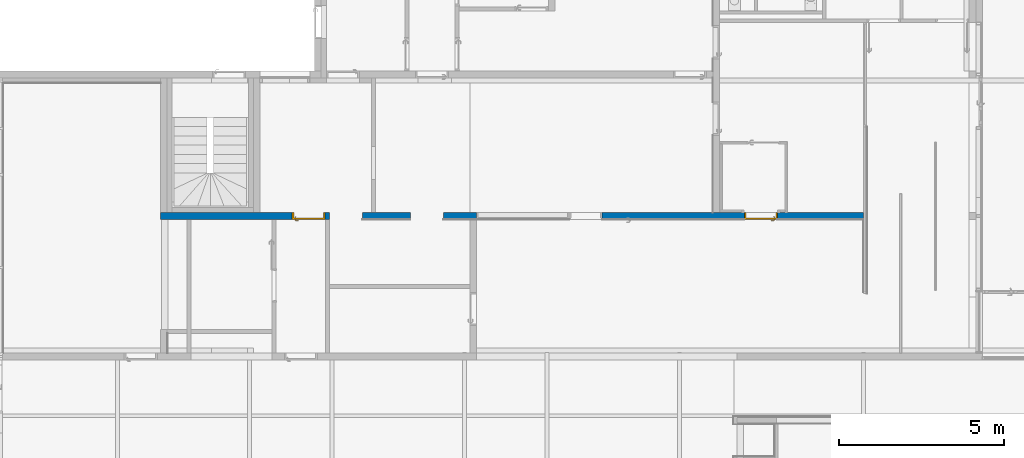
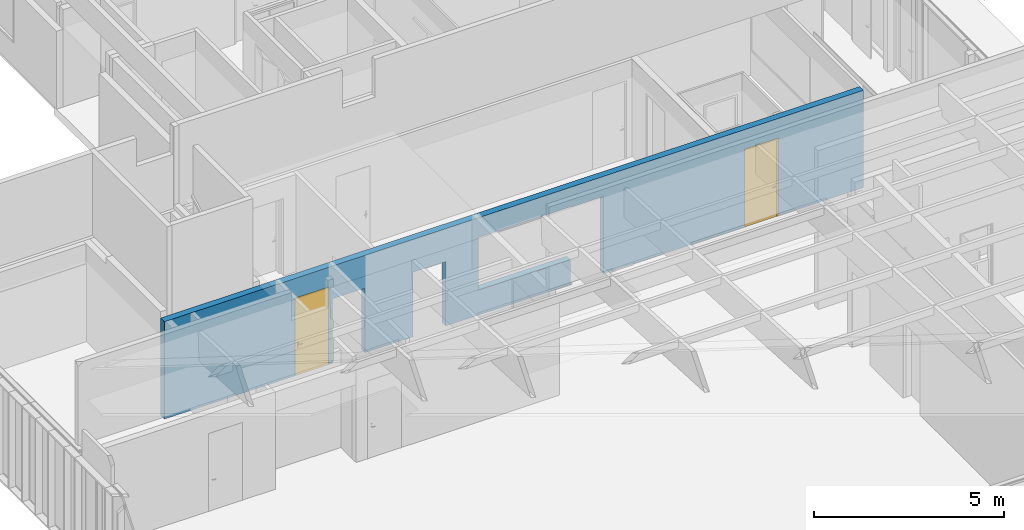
# One storey, part 86 of 240: 2 doors, 1 wall, 6 openings.
"""IFC2X3 building model written with IfcOpenShell, lengths in centimetres."""

from ifc_helpers import new_model, entity, si_unit, converted_unit, derived_unit, direction, frame, frame_2d, origin, origin_2d_with_axis, place, context, subcontext, project, spatial, rectangle, extrude, faceted_brep, source, transform, mapped, material, material_list, layer, layer_set, layer_usage, type_object, type_shapes, element, fill, save


model = new_model("IFC2X3")

# Units and contexts
model_context = context("Model", 3, precision=0.001, world=origin(), true_north=direction((6.12303176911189e-17, 1.0)))
body_context = subcontext(model_context, "Body", "Model", "MODEL_VIEW")
ifc_project = project(units=[si_unit("LENGTHUNIT", "METRE", prefix="CENTI"), si_unit("AREAUNIT", "SQUARE_METRE"), si_unit("VOLUMEUNIT", "CUBIC_METRE"), converted_unit("PLANEANGLEUNIT", "DEGREE", entity("IfcRatioMeasure", 0.0174532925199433), si_unit("PLANEANGLEUNIT", "RADIAN"), dimensions=[0, 0, 0, 0, 0, 0, 0]), si_unit("MASSUNIT", "GRAM", prefix="KILO"), derived_unit("MASSDENSITYUNIT", [(si_unit("MASSUNIT", "GRAM", prefix="KILO"), 1), (si_unit("LENGTHUNIT", "METRE"), -3)]), si_unit("TIMEUNIT", "SECOND"), si_unit("FREQUENCYUNIT", "HERTZ"), si_unit("THERMODYNAMICTEMPERATUREUNIT", "DEGREE_CELSIUS"), derived_unit("THERMALTRANSMITTANCEUNIT", [(si_unit("MASSUNIT", "GRAM", prefix="KILO"), 1), (si_unit("THERMODYNAMICTEMPERATUREUNIT", "KELVIN"), -1), (si_unit("TIMEUNIT", "SECOND"), -3)]), derived_unit("VOLUMETRICFLOWRATEUNIT", [(si_unit("LENGTHUNIT", "METRE"), 3), (si_unit("TIMEUNIT", "SECOND"), -1)]), si_unit("ELECTRICCURRENTUNIT", "AMPERE"), si_unit("ELECTRICVOLTAGEUNIT", "VOLT"), si_unit("POWERUNIT", "WATT"), si_unit("FORCEUNIT", "NEWTON", prefix="KILO"), si_unit("ILLUMINANCEUNIT", "LUX"), si_unit("LUMINOUSFLUXUNIT", "LUMEN"), si_unit("LUMINOUSINTENSITYUNIT", "CANDELA"), derived_unit("USERDEFINED", [(si_unit("MASSUNIT", "GRAM", prefix="KILO"), -1), (si_unit("LENGTHUNIT", "METRE"), -2), (si_unit("TIMEUNIT", "SECOND"), 3), (si_unit("LUMINOUSFLUXUNIT", "LUMEN"), 1)]), derived_unit("LINEARVELOCITYUNIT", [(si_unit("LENGTHUNIT", "METRE"), 1), (si_unit("TIMEUNIT", "SECOND"), -1)]), si_unit("PRESSUREUNIT", "PASCAL"), derived_unit("USERDEFINED", [(si_unit("LENGTHUNIT", "METRE"), -2), (si_unit("MASSUNIT", "GRAM", prefix="KILO"), 1), (si_unit("TIMEUNIT", "SECOND"), -2)])], contexts=[model_context])

# Site, building, storey
site_placement = place(None, frame((-2781.94577612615, 7442.24238424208, 0.0)))
site = spatial("IfcSite", under=ifc_project, at=site_placement, Name="Default", CompositionType="ELEMENT")
building_placement = place(site_placement, origin())
building = spatial("IfcBuilding", under=site, at=building_placement, CompositionType="ELEMENT")
storey_placement = place(building_placement, origin())
storey = spatial("IfcBuildingStorey", under=building, at=storey_placement, Name="N00 - COO", CompositionType="ELEMENT", Elevation=0.0)

# Wall, openings, doors
ifc_material_1 = material(Name="01 - Maçonnerie")
ifc_layer = layer(ifc_material_1, 20.0)
ifc_layer_set = layer_set([ifc_layer], Name="Mur de base:04 - Structure - béton - 20cm")
ifc_layer_usage = layer_usage(ifc_layer_set, "AXIS2", "NEGATIVE", 10.0)
wall_type = type_object("IfcWallType", Name="Mur de base:04 - Structure - béton - 20cm", PredefinedType="STANDARD", material=ifc_layer_set)
wall_placement = place(building_placement, frame((-9241.932180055, -3790.71966115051, 0.0), z_axis=(0.0, 0.0, 1.0), x_axis=(-1.0, 0.0, 0.0)))
wall = element("IfcWallStandardCase", 1, at=wall_placement, inside=storey, type_object=wall_type, material=ifc_layer_usage, Name="Mur de base:04 - Structure - béton - 20cm", ObjectType="Mur de base:04 - Structure - béton - 20cm", context=body_context, shape_type="SweptSolid", body=[
    extrude(rectangle(XDim=2125.55062791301, YDim=19.9999999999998, at=frame_2d((1062.77531395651, -2.05169214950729e-13), x_axis=(-1.0, 0.0))), origin(), (0.0, 0.0, 1.0), 313.0),
])
opening_1_placement = place(wall_placement, origin())
element("IfcOpeningElement", 2, at=opening_1_placement, cuts=wall, Name="Mur de base:04 - Structure - béton - 20cm", ObjectType="Opening", context=body_context, shape_type="SweptSolid", body=[
    extrude(rectangle(XDim=207.5, YDim=100.000000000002, at=origin_2d_with_axis()), frame((1565.06781692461, -10.0, 103.75), z_axis=(0.0, 1.0, 0.0), x_axis=(0.0, 0.0, -1.0)), (0.0, 0.0, 1.0), 19.9999999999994),
])
opening_2_placement = place(wall_placement, origin())
element("IfcOpeningElement", 3, at=opening_2_placement, cuts=wall, Name="Mur de base:04 - Structure - béton - 20cm", ObjectType="Opening", context=body_context, shape_type="SweptSolid", body=[
    extrude(rectangle(XDim=207.5, YDim=100.000000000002, at=frame_2d((0.0, 1.73372427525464e-12), x_axis=(1.0, 0.0))), frame((1320.06781692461, -10.0, 103.75), z_axis=(0.0, 1.0, 0.0), x_axis=(0.0, 0.0, -1.0)), (0.0, 0.0, 1.0), 19.9999999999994),
])
opening_3_placement = place(wall_placement, frame((1627.56781692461, -10.0, 0.0)))
opening_3 = element("IfcOpeningElement", 4, at=opening_3_placement, cuts=wall, Name="Int. Simple:PP simple (0.93m x 2.50m):1", ObjectType="Opening", context=body_context, shape_type="SweptSolid", body=[
    extrude(rectangle(XDim=248.500000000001, YDim=99.9999999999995, at=frame_2d((124.250000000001, 50.0), x_axis=(1.0, 0.0))), frame((0.0, 0.0, 0.0), z_axis=(0.0, 1.0, 0.0), x_axis=(0.0, 0.0, 1.0)), (0.0, 0.0, 1.0), 20.0),
])
opening_4_placement = place(wall_placement, frame((790.067816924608, -10.0, 0.0)))
element("IfcOpeningElement", 5, at=opening_4_placement, cuts=wall, Name="Int. Simple:PP (0.93m x 2.50m):1", ObjectType="Opening", context=body_context, shape_type="SweptSolid", body=[
    extrude(rectangle(XDim=248.500000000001, YDim=99.9999999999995, at=frame_2d((124.250000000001, 50.0), x_axis=(1.0, 0.0))), frame((0.0, 0.0, 0.0), z_axis=(0.0, 1.0, 0.0), x_axis=(0.0, 0.0, 1.0)), (0.0, 0.0, 1.0), 20.0),
])
opening_5_placement = place(wall_placement, frame((260.067816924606, -10.0, 0.0)))
opening_5 = element("IfcOpeningElement", 6, at=opening_5_placement, cuts=wall, Name="Int. Simple:PP (0.93m x 2.50m):1", ObjectType="Opening", context=body_context, shape_type="SweptSolid", body=[
    extrude(rectangle(XDim=248.500000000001, YDim=99.9999999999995, at=frame_2d((124.250000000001, 49.9999999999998), x_axis=(1.0, 0.0))), frame((0.0, 0.0, 0.0), z_axis=(0.0, 1.0, 0.0), x_axis=(0.0, 0.0, 1.0)), (0.0, 0.0, 1.0), 20.0),
])
opening_6_placement = place(wall_placement, frame((1170.03255804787, 10.0, 80.0)))
element("IfcOpeningElement", 7, at=opening_6_placement, cuts=wall, Name="châssis intérieur vitré:châssis intérieur vitré self  (h=2.22) 2:1", ObjectType="Opening", context=body_context, shape_type="SweptSolid", body=[
    extrude(rectangle(XDim=170.0, YDim=279.964741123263, at=frame_2d((84.9999999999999, 139.982370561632), x_axis=(1.0, 0.0))), frame((0.0, 0.0, 0.0), z_axis=(0.0, -1.0, 0.0), x_axis=(0.0, 0.0, 1.0)), (0.0, 0.0, 1.0), 20.0),
])
ifc_material_2 = material(Name="Finition Peinture - Blanc satiné")
ifc_material_3 = material(Name="Bois - Panneau de porte")
ifc_material_4 = material(Name="Bois - Cadre de porte")
ifc_material_list_1 = material_list([ifc_material_2, ifc_material_3, ifc_material_4])
ifc_material_list_2 = material_list([ifc_material_2, ifc_material_3, ifc_material_4])
door_style_1 = type_object("IfcDoorStyle", Name="PP simple (0.93m x 2.50m)", ConstructionType="NOTDEFINED", OperationType="SINGLE_SWING_LEFT", ParameterTakesPrecedence=False, Sizeable=False, material=ifc_material_list_2)
shared_shape_1 = source(origin(), body_context, "Body", "Brep", [
    faceted_brep([(10.5352761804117, -0.500000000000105, 86.6003983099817), (11.5000000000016, -0.500000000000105, 87.0), (11.5000000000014, -0.500000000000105, 108.0), (10.5352761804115, -0.500000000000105, 108.399601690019), (9.50000000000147, -0.500000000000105, 108.535898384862), (8.46472381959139, -0.500000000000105, 108.399601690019), (7.50000000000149, -0.500000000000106, 108.0), (7.50000000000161, -0.500000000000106, 87.0), (8.46472381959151, -0.500000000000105, 86.6003983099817), (9.50000000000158, -0.500000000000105, 86.464101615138), (10.5352761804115, 0.0, 108.399601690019), (11.5000000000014, 0.0, 108.0), (11.5000000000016, 0.0, 87.0), (10.5352761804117, 0.0, 86.6003983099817), (9.50000000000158, 0.0, 86.464101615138), (8.46472381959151, 0.0, 86.6003983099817), (7.50000000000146, 0.0, 87.0), (7.50000000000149, 0.0, 108.0), (8.46472381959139, 0.0, 108.399601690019), (9.50000000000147, 0.0, 108.535898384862)], [[[0, 1, 2, 3, 4, 5, 6, 7, 8, 9]], [[10, 11, 12, 13, 14, 15, 16, 17, 18, 19]], [[16, 15, 8, 7]], [[8, 15, 14, 9]], [[14, 13, 0, 9]], [[13, 12, 1, 0]], [[2, 1, 12, 11]], [[11, 10, 3, 2]], [[3, 10, 19, 4]], [[19, 18, 5, 4]], [[18, 17, 6, 5]], [[7, 6, 17, 16]]]),
    faceted_brep([(10.5352761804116, 4.0, 86.6003983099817), (11.5000000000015, 4.0, 87.0), (11.5000000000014, 4.0, 108.0), (10.5352761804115, 4.0, 108.399601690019), (9.50000000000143, 4.0, 108.535898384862), (8.46472381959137, 4.0, 108.399601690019), (7.50000000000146, 4.0, 108.0), (7.50000000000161, 4.0, 87.0), (8.46472381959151, 4.0, 86.6003983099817), (9.50000000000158, 4.0, 86.464101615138), (10.5352761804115, 4.49999999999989, 108.399601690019), (11.5000000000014, 4.49999999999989, 108.0), (11.5000000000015, 4.49999999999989, 87.0), (10.5352761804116, 4.49999999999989, 86.6003983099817), (9.50000000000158, 4.49999999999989, 86.464101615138), (8.46472381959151, 4.49999999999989, 86.6003983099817), (7.50000000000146, 4.49999999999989, 87.0), (7.50000000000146, 4.49999999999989, 108.0), (8.46472381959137, 4.49999999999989, 108.399601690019), (9.50000000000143, 4.49999999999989, 108.535898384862)], [[[0, 1, 2, 3, 4, 5, 6, 7, 8, 9]], [[10, 11, 12, 13, 14, 15, 16, 17, 18, 19]], [[11, 10, 3, 2]], [[3, 10, 19, 4]], [[19, 18, 5, 4]], [[18, 17, 6, 5]], [[7, 6, 17, 16]], [[16, 15, 8, 7]], [[8, 15, 14, 9]], [[14, 13, 0, 9]], [[13, 12, 1, 0]], [[2, 1, 12, 11]]]),
    faceted_brep([(9.29747013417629, -0.500000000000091, 100.778044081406), (9.70252986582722, -0.500000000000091, 100.778044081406), (10.1000000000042, -0.500000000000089, 100.699999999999), (10.1000000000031, -0.500000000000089, 99.3000000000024), (9.7025298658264, -0.500000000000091, 99.2219559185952), (9.29747013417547, -0.500000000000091, 99.221955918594), (8.8999999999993, -0.500000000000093, 99.2999999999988), (8.89999999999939, -0.500000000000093, 100.7), (8.89999999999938, -3.26509507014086, 100.7), (9.29747013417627, -3.10045754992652, 100.778044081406), (10.9023585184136, -4.70534593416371, 100.778044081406), (11.0701397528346, -4.30028620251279, 100.778044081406), (9.7025298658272, -2.93267631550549, 100.778044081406), (10.1000000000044, -2.76803879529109, 100.7), (10.1000000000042, -2.76803879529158, 99.3000000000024), (9.7025298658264, -2.93267631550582, 99.2219559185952), (11.0701397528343, -4.30028620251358, 99.2219559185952), (10.9023585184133, -4.70534593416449, 99.221955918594), (9.29747013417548, -3.10045754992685, 99.221955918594), (8.89999999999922, -3.26509507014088, 99.2999999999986), (10.7377209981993, -5.10281606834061, 100.7), (11.2347772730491, -3.90281606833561, 100.7), (11.2347772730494, -3.90281606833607, 99.3000000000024), (10.7377209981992, -5.10281606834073, 99.2999999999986), (19.5018640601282, -5.1028160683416, 99.2999999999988), (19.5018640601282, -4.70534593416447, 99.221955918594), (19.5018640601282, -4.30028620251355, 99.2219559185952), (19.5018640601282, -3.90281606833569, 99.3000000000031), (19.5018640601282, -3.90281606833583, 100.7), (19.5018640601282, -4.30028620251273, 100.778044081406), (19.5018640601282, -4.70534593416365, 100.778044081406), (19.5018640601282, -5.10281606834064, 100.699999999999), (14.7307697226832, -5.10281606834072, 100.7), (15.2860019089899, -4.5028160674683, 100.78786867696), (15.3683206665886, -3.9028160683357, 100.7), (15.3683206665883, -3.90281606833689, 99.3000000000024), (15.2860018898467, -4.50281607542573, 99.2121313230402), (14.7307700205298, -5.10281606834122, 99.2999999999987)], [[[0, 1, 2, 3, 4, 5, 6, 7]], [[8, 9, 0, 7]], [[9, 10, 11, 12, 1, 0]], [[12, 13, 2, 1]], [[3, 2, 13, 14]], [[14, 15, 4, 3]], [[15, 16, 17, 18, 5, 4]], [[18, 19, 6, 5]], [[7, 6, 19, 8]], [[20, 10, 9, 8]], [[11, 21, 13, 12]], [[14, 13, 21, 22]], [[22, 16, 15, 14]], [[17, 23, 19, 18]], [[8, 19, 23, 20]], [[24, 25, 26, 27, 28, 29, 30, 31]], [[32, 30, 33]], [[31, 30, 32]], [[10, 20, 32]], [[33, 34, 11]], [[21, 11, 34]], [[34, 29, 28]], [[30, 29, 33]], [[29, 34, 33]], [[10, 32, 33]], [[10, 33, 11]], [[22, 21, 34, 28, 27, 35]], [[35, 26, 36]], [[37, 36, 25]], [[22, 35, 16]], [[35, 27, 26]], [[24, 37, 25]], [[23, 17, 37]], [[37, 17, 36]], [[17, 16, 36]], [[16, 35, 36]], [[25, 36, 26]], [[20, 23, 37, 24, 31, 32]]]),
    faceted_brep([(9.29747013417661, 4.49999999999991, 100.778044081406), (8.89999999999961, 4.4999999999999, 100.7), (8.89999999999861, 4.4999999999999, 99.2999999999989), (9.29747013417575, 4.49999999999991, 99.221955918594), (9.70252986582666, 4.49999999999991, 99.2219559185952), (10.1000000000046, 4.49999999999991, 99.3000000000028), (10.1000000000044, 4.49999999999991, 100.7), (9.70252986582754, 4.49999999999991, 100.778044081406), (10.1000000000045, 6.7485204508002, 99.3000000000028), (10.1000000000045, 6.74852045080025, 100.7), (9.70252986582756, 6.91315797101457, 100.778044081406), (11.083890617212, 8.29451872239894, 100.778044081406), (10.916109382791, 8.69957845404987, 100.778044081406), (9.29747013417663, 7.0809392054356, 100.778044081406), (8.89999999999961, 7.24557672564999, 100.7), (8.89999999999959, 7.2455767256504, 99.2999999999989), (9.29747013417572, 7.08093920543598, 99.221955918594), (10.9161093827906, 8.69957845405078, 99.221955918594), (11.0838906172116, 8.29451872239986, 99.2219559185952), (9.70252986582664, 6.91315797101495, 99.2219559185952), (11.2485281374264, 7.89704858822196, 99.3000000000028), (11.2485281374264, 7.89704858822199, 100.7), (10.7514718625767, 9.09704858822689, 100.7), (10.7514718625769, 9.0970485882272, 99.2999999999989), (19.5045783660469, 7.89704858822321, 99.3000000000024), (19.5045783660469, 8.29451872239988, 99.2219559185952), (19.5045783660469, 8.6995784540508, 99.221955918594), (19.5045783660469, 9.09704858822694, 99.2999999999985), (19.5045783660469, 9.09704858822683, 100.7), (19.5045783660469, 8.69957845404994, 100.778044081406), (19.5045783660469, 8.29451872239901, 100.778044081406), (19.5045783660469, 7.89704858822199, 100.7), (15.3765520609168, 7.89704858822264, 99.3000000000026), (15.3765532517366, 7.89704858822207, 100.7), (15.294234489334, 8.49704858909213, 100.78786867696), (14.7445205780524, 9.09704858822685, 100.7), (14.7445204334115, 9.09704858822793, 99.2999999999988), (15.2942345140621, 8.49704858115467, 99.2121313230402)], [[[0, 1, 2, 3, 4, 5, 6, 7]], [[6, 5, 8, 9]], [[9, 10, 7, 6]], [[10, 11, 12, 13, 0, 7]], [[13, 14, 1, 0]], [[2, 1, 14, 15]], [[15, 16, 3, 2]], [[16, 17, 18, 19, 4, 3]], [[19, 8, 5, 4]], [[9, 8, 20, 21]], [[21, 11, 10, 9]], [[12, 22, 14, 13]], [[15, 14, 22, 23]], [[23, 17, 16, 15]], [[18, 20, 8, 19]], [[24, 25, 26, 27, 28, 29, 30, 31]], [[21, 20, 32, 24, 31, 33]], [[33, 30, 34]], [[35, 34, 29]], [[21, 33, 11]], [[33, 31, 30]], [[28, 35, 29]], [[22, 12, 35]], [[35, 12, 34]], [[12, 11, 34]], [[11, 33, 34]], [[29, 34, 30]], [[22, 35, 28, 27, 36, 23]], [[36, 26, 37]], [[27, 26, 36]], [[17, 23, 36]], [[37, 32, 18]], [[20, 18, 32]], [[32, 25, 24]], [[26, 25, 37]], [[25, 32, 37]], [[17, 36, 37]], [[17, 37, 18]]]),
    faceted_brep([(3.50000000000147, 4.0, 245.0), (96.5000000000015, 4.0, 245.0), (96.5000000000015, 4.0, 0.0), (3.50000000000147, 4.0, 0.0), (3.50000000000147, 0.0, 245.0), (3.50000000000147, 0.0, 0.0), (96.5000000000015, 0.0, 0.0), (96.5000000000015, 0.0, 245.0)], [[[0, 1, 2, 3]], [[4, 5, 6, 7]], [[1, 0, 4, 7]], [[2, 1, 7, 6]], [[3, 2, 6, 5]], [[0, 3, 5, 4]]]),
    faceted_brep([(0.0, 20.0, 0.0), (-1.50000000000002, 20.0, 0.0), (-1.50000000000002, 20.5000000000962, 0.0), (5.0, 20.5000000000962, 0.0), (5.0, 4.0, 0.0), (3.50000000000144, 4.0, 0.0), (3.50000000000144, -0.500000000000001, 0.0), (-1.50000000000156, -0.500000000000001, 0.0), (-1.50000000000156, 0.0, 0.0), (0.0, 0.0, 0.0), (0.0, 0.0, 248.500000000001), (0.0, 20.0, 248.500000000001), (100.0, 20.0, 248.500000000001), (100.0, 20.0, 0.0), (101.5, 20.0, 0.0), (101.5, 20.0, 250.0), (-1.50000000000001, 20.0, 250.0), (5.0, 20.5000000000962, 243.5), (5.0, 4.0, 243.5), (95.0, 4.0, 243.5), (95.0, 4.0, 0.0), (96.499999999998, 4.0, 0.0), (96.499999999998, 4.0, 245.0), (3.50000000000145, 4.0, 245.0), (100.0, 0.0, 248.500000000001), (100.0, 0.0, 0.0), (101.500000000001, 0.0, 0.0), (101.500000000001, -0.500000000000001, 0.0), (96.499999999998, -0.500000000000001, 0.0), (95.0, 20.5000000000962, 0.0), (101.5, 20.5000000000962, 0.0), (95.0, 20.5000000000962, 243.5), (3.50000000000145, -0.500000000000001, 245.0), (96.499999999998, -0.500000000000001, 245.0), (101.500000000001, -0.500000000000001, 250.0), (-1.50000000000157, -0.500000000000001, 250.0), (-1.50000000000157, 0.0, 250.0), (101.500000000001, 0.0, 250.0), (-1.50000000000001, 20.5000000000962, 250.0), (101.5, 20.5000000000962, 250.0)], [[[0, 1, 2, 3, 4, 5, 6, 7, 8, 9]], [[0, 9, 10, 11]], [[1, 0, 11, 12, 13, 14, 15, 16]], [[3, 17, 18, 4]], [[5, 4, 18, 19, 20, 21, 22, 23]], [[12, 24, 25, 13]], [[13, 25, 26, 27, 28, 21, 20, 29, 30, 14]], [[19, 31, 29, 20]], [[11, 10, 24, 12]], [[18, 17, 31, 19]], [[5, 23, 32, 6]], [[7, 6, 32, 33, 28, 27, 34, 35]], [[8, 7, 35, 36]], [[9, 8, 36, 37, 26, 25, 24, 10]], [[2, 1, 16, 38]], [[3, 2, 38, 39, 30, 29, 31, 17]], [[33, 22, 21, 28]], [[37, 34, 27, 26]], [[39, 15, 14, 30]], [[32, 23, 22, 33]], [[36, 35, 34, 37]], [[38, 16, 15, 39]]]),
])
type_shapes(door_style_1, [shared_shape_1])
door_1_placement = place(opening_3_placement, frame((100.0, 20.0, 0.0), z_axis=(0.0, 0.0, 1.0), x_axis=(-1.0, 0.0, 0.0)))
door_1 = element("IfcDoor", 8, at=door_1_placement, inside=storey, type_object=door_style_1, material=ifc_material_list_1, Name="Int. Simple:PP simple (0.93m x 2.50m)", ObjectType="Int. Simple:PP simple (0.93m x 2.50m)", OverallHeight=248.500000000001, OverallWidth=99.9999999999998, context=body_context, shape_type="MappedRepresentation", body=[
    mapped(shared_shape_1, transform((0.0, 0.0, 0.0), scale=1.0)),
])
fill(opening_3, door_1)
ifc_material_list_3 = material_list([ifc_material_2, ifc_material_3, ifc_material_4])
ifc_material_list_4 = material_list([ifc_material_2, ifc_material_3, ifc_material_4])
door_style_2 = type_object("IfcDoorStyle", Name="PP (0.93m x 2.50m)", ConstructionType="NOTDEFINED", OperationType="SINGLE_SWING_RIGHT", ParameterTakesPrecedence=False, Sizeable=False, material=ifc_material_list_4)
shared_shape_2 = source(origin(), body_context, "Body", "Brep", [
    faceted_brep([(99.5000000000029, -0.500000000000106, 87.0), (99.5000000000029, -0.500000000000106, 108.0), (98.535276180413, -0.500000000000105, 108.399601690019), (97.5000000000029, -0.500000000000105, 108.535898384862), (96.4647238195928, -0.500000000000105, 108.399601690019), (95.500000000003, -0.500000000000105, 108.0), (95.5000000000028, -0.500000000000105, 87.0), (96.4647238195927, -0.500000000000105, 86.6003983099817), (97.5000000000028, -0.500000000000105, 86.464101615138), (98.5352761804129, -0.500000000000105, 86.6003983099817), (99.5000000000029, 0.0, 108.0), (99.5000000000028, 0.0, 87.0), (98.5352761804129, 0.0, 86.6003983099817), (97.5000000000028, 0.0, 86.464101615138), (96.4647238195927, 0.0, 86.6003983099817), (95.5000000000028, 0.0, 87.0), (95.5000000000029, 0.0, 108.0), (96.4647238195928, 0.0, 108.399601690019), (97.5000000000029, 0.0, 108.535898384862), (98.535276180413, 0.0, 108.399601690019)], [[[0, 1, 2, 3, 4, 5, 6, 7, 8, 9]], [[10, 11, 12, 13, 14, 15, 16, 17, 18, 19]], [[9, 12, 11, 0]], [[8, 13, 12, 9]], [[7, 14, 13, 8]], [[7, 6, 15, 14]], [[15, 6, 5, 16]], [[4, 17, 16, 5]], [[3, 18, 17, 4]], [[2, 19, 18, 3]], [[2, 1, 10, 19]], [[11, 10, 1, 0]]]),
    faceted_brep([(99.5000000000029, 4.0, 87.0), (99.5000000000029, 4.0, 108.0), (98.535276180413, 4.0, 108.399601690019), (97.5000000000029, 4.0, 108.535898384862), (96.4647238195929, 4.0, 108.399601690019), (95.500000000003, 4.0, 108.0), (95.5000000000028, 4.0, 87.0), (96.4647238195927, 4.0, 86.6003983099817), (97.5000000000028, 4.0, 86.464101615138), (98.5352761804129, 4.0, 86.6003983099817), (97.5000000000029, 4.49999999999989, 108.535898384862), (98.535276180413, 4.49999999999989, 108.399601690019), (99.5000000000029, 4.49999999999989, 108.0), (99.5000000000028, 4.49999999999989, 87.0), (98.5352761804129, 4.49999999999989, 86.6003983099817), (97.5000000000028, 4.49999999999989, 86.464101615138), (96.4647238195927, 4.49999999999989, 86.6003983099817), (95.5000000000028, 4.49999999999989, 87.0), (95.500000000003, 4.49999999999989, 108.0), (96.4647238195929, 4.49999999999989, 108.399601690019)], [[[0, 1, 2, 3, 4, 5, 6, 7, 8, 9]], [[10, 11, 12, 13, 14, 15, 16, 17, 18, 19]], [[4, 19, 18, 5]], [[3, 10, 19, 4]], [[2, 11, 10, 3]], [[2, 1, 12, 11]], [[13, 12, 1, 0]], [[9, 14, 13, 0]], [[8, 15, 14, 9]], [[7, 16, 15, 8]], [[7, 6, 17, 16]], [[17, 6, 5, 18]]]),
    faceted_brep([(97.2974701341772, -0.500000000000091, 100.778044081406), (97.7025298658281, -0.500000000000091, 100.778044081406), (98.1000000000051, -0.500000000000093, 100.699999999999), (98.100000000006, -0.500000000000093, 99.2999999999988), (97.7025298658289, -0.500000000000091, 99.221955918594), (97.297470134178, -0.500000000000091, 99.2219559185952), (96.9000000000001, -0.500000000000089, 99.3000000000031), (96.9000000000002, -0.500000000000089, 100.7), (97.7025298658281, -3.10045754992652, 100.778044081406), (98.1000000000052, -3.26509507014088, 100.7), (97.2974701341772, -2.93267631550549, 100.778044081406), (95.9298602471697, -4.30028620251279, 100.778044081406), (96.0976414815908, -4.70534593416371, 100.778044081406), (96.9000000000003, -2.76803879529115, 100.7), (96.9000000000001, -2.76803879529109, 99.3000000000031), (97.297470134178, -2.93267631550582, 99.2219559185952), (97.7025298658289, -3.10045754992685, 99.221955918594), (96.0976414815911, -4.70534593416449, 99.221955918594), (95.9298602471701, -4.30028620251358, 99.2219559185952), (98.100000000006, -3.26509507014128, 99.2999999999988), (96.2622790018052, -5.1028160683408, 100.7), (95.7652227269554, -3.90281606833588, 100.7), (95.7652227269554, -3.90281606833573, 99.3000000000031), (96.2622790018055, -5.10281606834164, 99.2999999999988), (87.4981359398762, -5.10281606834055, 100.7), (87.4981359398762, -4.70534593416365, 100.778044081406), (87.4981359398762, -4.30028620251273, 100.778044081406), (87.4981359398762, -3.90281606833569, 100.699999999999), (87.4981359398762, -3.90281606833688, 99.3000000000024), (87.4981359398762, -4.30028620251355, 99.2219559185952), (87.4981359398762, -4.70534593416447, 99.221955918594), (87.4981359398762, -5.10281606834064, 99.2999999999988), (91.7139980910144, -4.5028160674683, 100.78786867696), (92.2692302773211, -5.1028160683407, 100.7), (91.6316793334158, -3.9028160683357, 100.7), (91.631679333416, -3.90281606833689, 99.3000000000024), (91.7139981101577, -4.50281607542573, 99.2121313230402), (92.2692310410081, -5.10281606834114, 99.2999999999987)], [[[0, 1, 2, 3, 4, 5, 6, 7]], [[2, 1, 8, 9]], [[1, 0, 10, 11, 12, 8]], [[0, 7, 13, 10]], [[14, 13, 7, 6]], [[5, 15, 14, 6]], [[5, 4, 16, 17, 18, 15]], [[3, 19, 16, 4]], [[9, 19, 3, 2]], [[9, 8, 12, 20]], [[10, 13, 21, 11]], [[22, 21, 13, 14]], [[14, 15, 18, 22]], [[16, 19, 23, 17]], [[20, 23, 19, 9]], [[24, 25, 26, 27, 28, 29, 30, 31]], [[32, 25, 33]], [[33, 25, 24]], [[33, 20, 12]], [[11, 34, 32]], [[34, 11, 21]], [[27, 26, 34]], [[32, 26, 25]], [[32, 34, 26]], [[32, 33, 12]], [[11, 32, 12]], [[21, 22, 35, 28, 27, 34]], [[36, 29, 35]], [[30, 36, 37]], [[18, 35, 22]], [[29, 28, 35]], [[30, 37, 31]], [[37, 17, 23]], [[36, 17, 37]], [[36, 18, 17]], [[36, 35, 18]], [[29, 36, 30]], [[23, 20, 33, 24, 31, 37]]]),
    faceted_brep([(97.2974701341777, 4.49999999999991, 99.2219559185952), (97.7025298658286, 4.49999999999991, 99.221955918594), (98.1000000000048, 4.4999999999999, 99.2999999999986), (98.1000000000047, 4.4999999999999, 100.7), (97.7025298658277, 4.49999999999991, 100.778044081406), (97.2974701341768, 4.49999999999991, 100.778044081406), (96.8999999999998, 4.49999999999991, 100.7), (96.900000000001, 4.49999999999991, 99.3000000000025), (96.8999999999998, 6.7485204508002, 100.7), (96.8999999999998, 6.74852045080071, 99.3000000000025), (97.2974701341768, 6.91315797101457, 100.778044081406), (97.7025298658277, 7.0809392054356, 100.778044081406), (96.0838906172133, 8.69957845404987, 100.778044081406), (95.9161093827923, 8.29451872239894, 100.778044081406), (98.1000000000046, 7.24557672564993, 100.7), (98.1000000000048, 7.24557672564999, 99.2999999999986), (97.7025298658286, 7.08093920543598, 99.221955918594), (97.2974701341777, 6.91315797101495, 99.2219559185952), (95.9161093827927, 8.29451872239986, 99.2219559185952), (96.0838906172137, 8.69957845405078, 99.221955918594), (95.751471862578, 7.89704858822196, 100.7), (95.7514718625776, 7.89704858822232, 99.3000000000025), (96.2485281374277, 9.09704858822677, 100.7), (96.2485281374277, 9.09704858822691, 99.2999999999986), (87.4954216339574, 8.29451872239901, 100.778044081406), (87.4954216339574, 8.69957845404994, 100.778044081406), (87.4954216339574, 9.09704858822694, 100.7), (87.4954216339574, 9.09704858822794, 99.2999999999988), (87.4954216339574, 8.6995784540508, 99.221955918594), (87.4954216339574, 8.29451872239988, 99.2219559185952), (87.4954216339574, 7.89704858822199, 99.3000000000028), (87.4954216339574, 7.89704858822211, 100.7), (91.6234467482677, 7.89704858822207, 100.7), (91.6234479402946, 7.89704858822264, 99.3000000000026), (91.7057655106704, 8.49704858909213, 100.78786867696), (92.255479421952, 9.09704858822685, 100.7), (92.2554795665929, 9.09704858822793, 99.2999999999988), (91.7057654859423, 8.49704858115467, 99.2121313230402)], [[[0, 1, 2, 3, 4, 5, 6, 7]], [[8, 9, 7, 6]], [[5, 10, 8, 6]], [[5, 4, 11, 12, 13, 10]], [[3, 14, 11, 4]], [[14, 3, 2, 15]], [[2, 1, 16, 15]], [[1, 0, 17, 18, 19, 16]], [[0, 7, 9, 17]], [[20, 21, 9, 8]], [[8, 10, 13, 20]], [[14, 22, 12, 11]], [[23, 22, 14, 15]], [[15, 16, 19, 23]], [[17, 9, 21, 18]], [[24, 25, 26, 27, 28, 29, 30, 31]], [[21, 20, 32, 31, 30, 33]], [[34, 24, 32]], [[25, 34, 35]], [[13, 32, 20]], [[24, 31, 32]], [[25, 35, 26]], [[35, 12, 22]], [[34, 12, 35]], [[34, 13, 12]], [[34, 32, 13]], [[24, 34, 25]], [[22, 23, 36, 27, 26, 35]], [[37, 28, 36]], [[36, 28, 27]], [[36, 23, 19]], [[18, 33, 37]], [[33, 18, 21]], [[30, 29, 33]], [[37, 29, 28]], [[37, 33, 29]], [[37, 36, 19]], [[18, 37, 19]]]),
    faceted_brep([(103.500000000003, 4.0, 245.0), (103.500000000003, 4.0, 0.0), (10.5000000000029, 4.0, 0.0), (10.5000000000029, 4.0, 245.0), (103.500000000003, 0.0, 245.0), (10.5000000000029, 0.0, 245.0), (10.5000000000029, 0.0, 0.0), (103.500000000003, 0.0, 0.0)], [[[0, 1, 2, 3]], [[4, 5, 6, 7]], [[3, 5, 4, 0]], [[2, 6, 5, 3]], [[1, 7, 6, 2]], [[0, 4, 7, 1]]]),
    faceted_brep([(107.0, 20.0, 0.0), (107.0, 0.0, 0.0), (108.500000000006, 0.0, 0.0), (108.500000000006, -0.500000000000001, 0.0), (103.500000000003, -0.500000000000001, 0.0), (103.500000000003, 4.0, 0.0), (102.0, 4.0, 0.0), (102.0, 20.5000000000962, 0.0), (108.500000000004, 20.5000000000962, 0.0), (108.500000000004, 20.0, 0.0), (108.500000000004, 20.0, 250.0), (5.50000000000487, 20.0, 250.0), (5.50000000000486, 20.0, 0.0), (7.0, 20.0, 0.0), (7.0, 20.0, 248.500000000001), (107.0, 20.0, 248.500000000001), (108.500000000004, 20.5000000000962, 250.0), (102.0, 20.5000000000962, 243.5), (12.0, 20.5000000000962, 243.5), (12.0, 20.5000000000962, 0.0), (5.50000000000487, 20.5000000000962, 0.0), (5.50000000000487, 20.5000000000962, 250.0), (102.0, 4.0, 243.5), (103.500000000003, 4.0, 245.0), (10.5000000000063, 4.0, 245.0), (10.5000000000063, 4.0, 0.0), (12.0, 4.0, 0.0), (12.0, 4.0, 243.5), (103.500000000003, -0.500000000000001, 245.0), (108.500000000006, -0.500000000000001, 250.0), (5.5000000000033, -0.500000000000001, 250.0), (5.50000000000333, -0.500000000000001, 0.0), (10.5000000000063, -0.500000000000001, 0.0), (10.5000000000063, -0.500000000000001, 245.0), (108.500000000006, 0.0, 250.0), (107.0, 0.0, 248.500000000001), (7.0, 0.0, 248.500000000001), (7.0, 0.0, 0.0), (5.5000000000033, 0.0, 0.0), (5.50000000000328, 0.0, 250.0)], [[[0, 1, 2, 3, 4, 5, 6, 7, 8, 9]], [[9, 10, 11, 12, 13, 14, 15, 0]], [[8, 16, 10, 9]], [[7, 17, 18, 19, 20, 21, 16, 8]], [[7, 6, 22, 17]], [[5, 23, 24, 25, 26, 27, 22, 6]], [[5, 4, 28, 23]], [[3, 29, 30, 31, 32, 33, 28, 4]], [[2, 34, 29, 3]], [[1, 35, 36, 37, 38, 39, 34, 2]], [[0, 15, 35, 1]], [[14, 13, 37, 36]], [[13, 12, 20, 19, 26, 25, 32, 31, 38, 37]], [[21, 20, 12, 11]], [[27, 26, 19, 18]], [[33, 32, 25, 24]], [[39, 38, 31, 30]], [[16, 21, 11, 10]], [[22, 27, 18, 17]], [[28, 33, 24, 23]], [[34, 39, 30, 29]], [[15, 14, 36, 35]]]),
])
type_shapes(door_style_2, [shared_shape_2])
door_2_placement = place(opening_5_placement, frame((107.000003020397, 20.0, 0.0), z_axis=(0.0, 0.0, 1.0), x_axis=(-1.0, 0.0, 0.0)))
door_2 = element("IfcDoor", 9, at=door_2_placement, inside=storey, type_object=door_style_2, material=ifc_material_list_3, Name="Int. Simple:PP (0.93m x 2.50m)", ObjectType="Int. Simple:PP (0.93m x 2.50m)", OverallHeight=248.500000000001, OverallWidth=99.9999999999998, context=body_context, shape_type="MappedRepresentation", body=[
    mapped(shared_shape_2, transform((0.0, 0.0, 0.0), scale=1.0)),
])
fill(opening_5, door_2)

save(model, "model.ifc")
